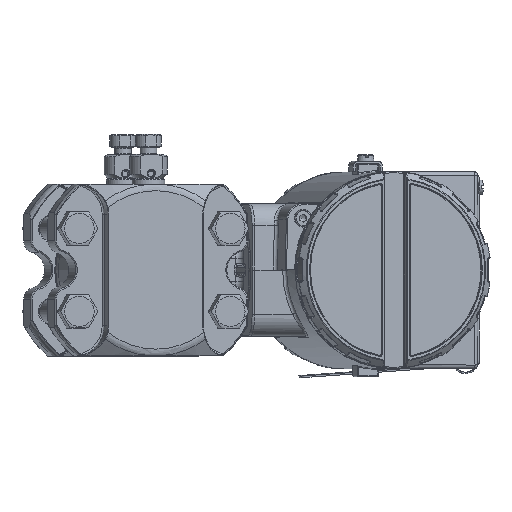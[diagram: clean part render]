
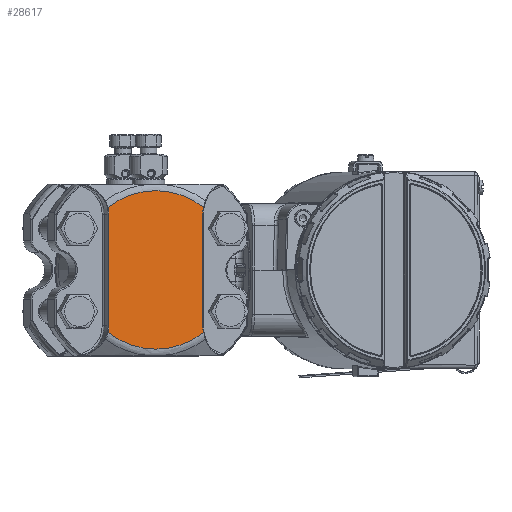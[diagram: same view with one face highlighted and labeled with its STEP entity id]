
A CAD part, top view. The second image highlights one B-rep face of the part: STEP entity #28617.
In plain terms, the highlighted planar face has unit normal (0.201, 0, 0.98) as drawn and (0, 0, 1) by its records, which use the part's own axes.
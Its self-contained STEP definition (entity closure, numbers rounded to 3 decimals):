
#1905=PLANE('',#31318);
#2478=FACE_OUTER_BOUND('',#4429,.T.);
#4429=EDGE_LOOP('',(#20240,#20241,#20242,#20243,#20244,#20245,#20246,#20247));
#6205=LINE('',#45976,#7255);
#6215=LINE('',#46353,#7265);
#7255=VECTOR('',#35235,10.);
#7265=VECTOR('',#35331,10.);
#8462=CIRCLE('',#31044,13.3);
#8466=CIRCLE('',#31050,13.3);
#8493=CIRCLE('',#31087,13.3);
#8497=CIRCLE('',#31093,13.3);
#8621=CIRCLE('',#31316,33.424);
#8623=CIRCLE('',#31319,33.424);
#11859=VERTEX_POINT('',#45956);
#11861=VERTEX_POINT('',#45968);
#11863=VERTEX_POINT('',#45974);
#11865=VERTEX_POINT('',#45980);
#11899=VERTEX_POINT('',#46333);
#11901=VERTEX_POINT('',#46345);
#11903=VERTEX_POINT('',#46351);
#11905=VERTEX_POINT('',#46357);
#14713=EDGE_CURVE('',#11861,#11859,#8462,.T.);
#14716=EDGE_CURVE('',#11863,#11861,#6205,.T.);
#14719=EDGE_CURVE('',#11865,#11863,#8466,.T.);
#14773=EDGE_CURVE('',#11901,#11899,#8493,.T.);
#14776=EDGE_CURVE('',#11903,#11901,#6215,.T.);
#14779=EDGE_CURVE('',#11905,#11903,#8497,.T.);
#15023=EDGE_CURVE('',#11905,#11859,#8621,.T.);
#15025=EDGE_CURVE('',#11865,#11899,#8623,.T.);
#20240=ORIENTED_EDGE('',*,*,#14719,.F.);
#20241=ORIENTED_EDGE('',*,*,#15025,.T.);
#20242=ORIENTED_EDGE('',*,*,#14773,.F.);
#20243=ORIENTED_EDGE('',*,*,#14776,.F.);
#20244=ORIENTED_EDGE('',*,*,#14779,.F.);
#20245=ORIENTED_EDGE('',*,*,#15023,.T.);
#20246=ORIENTED_EDGE('',*,*,#14713,.F.);
#20247=ORIENTED_EDGE('',*,*,#14716,.F.);
#28617=ADVANCED_FACE('',(#2478),#1905,.T.);
#31044=AXIS2_PLACEMENT_3D('',#45970,#35227,#35228);
#31050=AXIS2_PLACEMENT_3D('',#45982,#35241,#35242);
#31087=AXIS2_PLACEMENT_3D('',#46347,#35323,#35324);
#31093=AXIS2_PLACEMENT_3D('',#46359,#35337,#35338);
#31316=AXIS2_PLACEMENT_3D('',#47243,#35864,#35865);
#31318=AXIS2_PLACEMENT_3D('',#47245,#35868,#35869);
#31319=AXIS2_PLACEMENT_3D('',#47246,#35870,#35871);
#35227=DIRECTION('center_axis',(0.,0.,1.));
#35228=DIRECTION('ref_axis',(-0.104,0.995,0.));
#35235=DIRECTION('',(-1.,0.,0.));
#35241=DIRECTION('center_axis',(0.,0.,1.));
#35242=DIRECTION('ref_axis',(0.104,0.995,0.));
#35323=DIRECTION('center_axis',(0.,0.,1.));
#35324=DIRECTION('ref_axis',(0.104,-0.995,0.));
#35331=DIRECTION('',(1.,0.,0.));
#35337=DIRECTION('center_axis',(0.,0.,1.));
#35338=DIRECTION('ref_axis',(-0.104,-0.995,0.));
#35864=DIRECTION('center_axis',(0.,0.,1.));
#35865=DIRECTION('ref_axis',(1.,0.,0.));
#35868=DIRECTION('center_axis',(0.,0.,1.));
#35869=DIRECTION('ref_axis',(1.,0.,0.));
#35870=DIRECTION('center_axis',(0.,0.,1.));
#35871=DIRECTION('ref_axis',(1.,0.,0.));
#45956=CARTESIAN_POINT('',(-26.385,-20.517,31.5));
#45968=CARTESIAN_POINT('',(-23.5,-20.2,31.5));
#45970=CARTESIAN_POINT('Origin',(-23.5,-33.5,31.5));
#45974=CARTESIAN_POINT('',(23.5,-20.2,31.5));
#45976=CARTESIAN_POINT('',(-11.75,-20.2,31.5));
#45980=CARTESIAN_POINT('',(26.385,-20.517,31.5));
#45982=CARTESIAN_POINT('Origin',(23.5,-33.5,31.5));
#46333=CARTESIAN_POINT('',(26.385,20.517,31.5));
#46345=CARTESIAN_POINT('',(23.5,20.2,31.5));
#46347=CARTESIAN_POINT('Origin',(23.5,33.5,31.5));
#46351=CARTESIAN_POINT('',(-23.5,20.2,31.5));
#46353=CARTESIAN_POINT('',(11.75,20.2,31.5));
#46357=CARTESIAN_POINT('',(-26.385,20.517,31.5));
#46359=CARTESIAN_POINT('Origin',(-23.5,33.5,31.5));
#47243=CARTESIAN_POINT('Origin',(0.,0.,31.5));
#47245=CARTESIAN_POINT('Origin',(0.,0.,
31.5));
#47246=CARTESIAN_POINT('Origin',(0.,0.,31.5));
